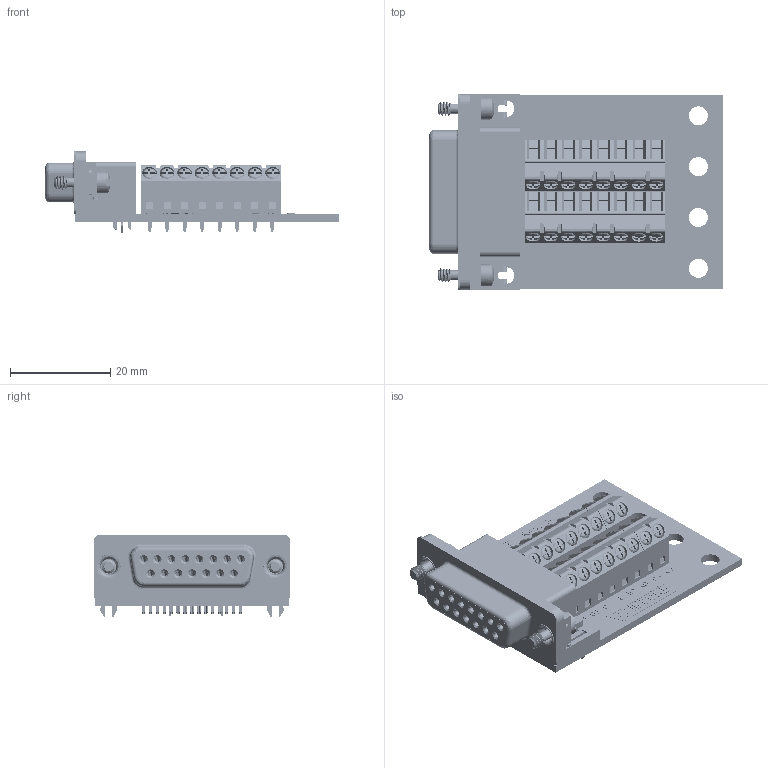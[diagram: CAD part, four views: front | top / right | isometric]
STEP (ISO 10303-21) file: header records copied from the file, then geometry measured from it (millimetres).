
FILE_DESCRIPTION (( 'STEP AP214' ), '1' );
FILE_NAME ('BRKSD15F-C.step', '2015-09-15T02:18:06', ( '' ), ( '' ), 'SwSTEP 2.0', 'SolidWorks 2014', '' );
FILE_SCHEMA (( 'AUTOMOTIVE_DESIGN' ));
Length unit declared in the file: millimetre
Products named in the file (1): BRKSD15F-C
Bounding box: 58.6 x 39.24 x 16.32 mm (x, y, z)
Surface area: 18264.1 mm2 (no closed solid volume)
Topology: 0 solids, 223 shells, 7194 faces, 17922 edges, 11382 vertices
Faces by surface type: plane 3931, bspline 1983, cylinder 1132, cone 144, torus 4
Entity records: 381829 total; most frequent: CARTESIAN_POINT 140928, ORIENTED_EDGE 35808, DIRECTION 27356, EDGE_CURVE 17922, LINE 12152, VECTOR 12152, VERTEX_POINT 11382, AXIS2_PLACEMENT_3D 7602
